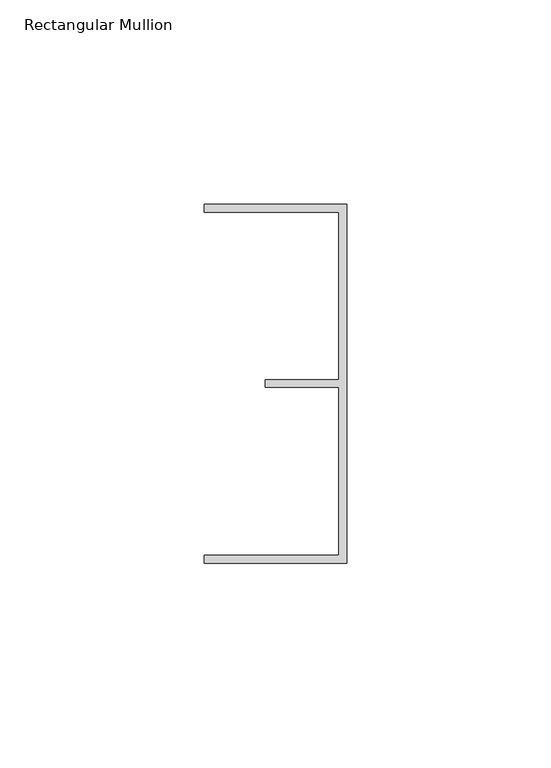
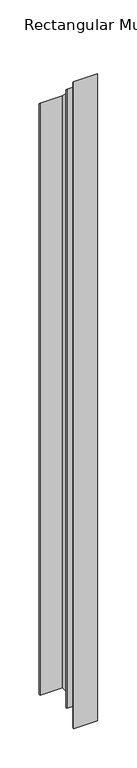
"""IFC4 building model written with IfcOpenShell, lengths in millimetres: member geometry, Rectangular Mullion : CEILING_TRACK_CAP 94-KLP00-P80-SD20ALU."""

from ifc_helpers import new_model, si_unit, origin, place, context, project, spatial, faceted_brep, source, transform, mapped, element, save


def rectangular_mullion_cb49bed4(model_context):
    return source(origin(), model_context, "Body", "Brep", [
        faceted_brep([(0.0, 44.0, -960.4), (0.0, -44.0, -960.4), (-35.0, -44.0, -960.4), (-35.0, -42.0, -960.4), (-2.0, -42.0, -960.4), (-2.0, -0.9316478, -960.4), (-20.0, -0.9316478, -960.4), (-20.0, 0.9316478, -960.4), (-2.0, 0.9316478, -960.4), (-2.0, 42.0, -960.4), (-35.0, 42.0, -960.4), (-35.0, 44.0, -960.4), (-35.0, 44.0, -44.0), (0.0, 44.0, -44.0), (-35.0, 42.0, -42.0), (-2.0, 42.0, -42.0), (-2.0, 0.9316478, -0.9316478), (-20.0, 0.9316478, -0.9316478), (-20.0, -0.9316478, 0.9316478), (-2.0, -0.9316478, 0.9316478), (-2.0, -42.0, 42.0), (-35.0, -42.0, 42.0), (-35.0, -44.0, 44.0), (0.0, -44.0, 44.0)], [[[0, 1, 2, 3, 4, 5, 6, 7, 8, 9, 10, 11]], [[12, 13, 0, 11]], [[14, 12, 11, 10]], [[15, 14, 10, 9]], [[16, 15, 9, 8]], [[17, 16, 8, 7]], [[18, 17, 7, 6]], [[19, 18, 6, 5]], [[20, 19, 5, 4]], [[21, 20, 4, 3]], [[22, 21, 3, 2]], [[23, 22, 2, 1]], [[13, 23, 1, 0]], [[13, 12, 14, 15, 16, 17, 18, 19, 20, 21, 22, 23]]]),
    ])


if __name__ == "__main__":
    model = new_model("IFC4")
    model_context = context("Model", 3, world=origin())
    ifc_project = project(units=[si_unit("LENGTHUNIT", "METRE", prefix="MILLI")], contexts=[model_context])
    site = spatial("IfcSite", under=ifc_project)
    building = spatial("IfcBuilding", under=site)
    placement = place(None, origin())
    rectangular_mullion_shape = rectangular_mullion_cb49bed4(model_context)
    element("IfcMember", 1, ObjectType="Rectangular Mullion : CEILING_TRACK_CAP 94-KLP00-P80-SD20ALU", at=placement, inside=building, context=model_context, shape_type="MappedRepresentation", body=[
        mapped(rectangular_mullion_shape, transform((0.0, 0.0, 0.0), x_axis=(1.0, 0.0, 0.0), y_axis=(0.0, 1.0, 0.0), z_axis=(0.0, 0.0, 1.0))),
    ])
    save(model, "model.ifc")
